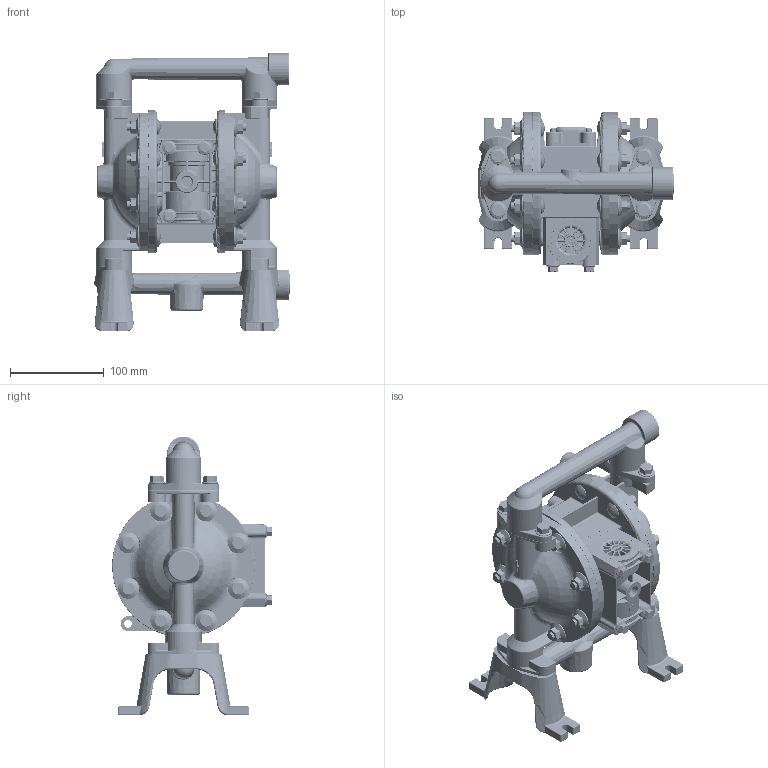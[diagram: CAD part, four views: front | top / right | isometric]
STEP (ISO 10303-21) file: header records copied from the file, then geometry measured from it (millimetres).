
FILE_DESCRIPTION(/* description */ (''),/* implementation_level */ '2;1');
FILE_NAME(/* name */ 'PD05R-XAX-X-B_06',/* time_stamp */ '2008-03-26T07:45:05-04:00',/* author */ (''),/* organization */ (''),/* preprocessor_version */ 'ST-DEVELOPER v9',/* originating_system */ 'UGS - NX 4.0',/* authorisation */ '');
FILE_SCHEMA (('AUTOMOTIVE_DESIGN { 1 0 10303 214 1 1 1 1 }'));
Products named in the file (1): szee47D1c481
Bounding box: 209.29 x 170.61 x 297.89 mm (x, y, z)
Volume: 2369911 mm3; surface area: 301803.4 mm2
Topology: 1 solids, 1 shells, 6225 faces, 15861 edges, 9345 vertices
Faces by surface type: plane 2353, cylinder 1364, bspline 1339, torus 534, cone 394, sphere 241
Full cylindrical faces by diameter (mm): 6.144 x4, 6.629 x4, 7.137 x1, 7.938 x17, 8.331 x2, 8.382 x1, 9.042 x1, 10 x1, 10.996 x1, 14.224 x4, 17.813 x2, 21.336 x1, 22.225 x16, 34.925 x1, 38.1 x2, 41.91 x2, 42.062 x2, 152.4 x2
Entity records: 211890 total; most frequent: CARTESIAN_POINT 73842, ORIENTED_EDGE 30312, DIRECTION 26980, EDGE_CURVE 15156, AXIS2_PLACEMENT_3D 10023, VERTEX_POINT 9230, LINE 6934, VECTOR 6934
